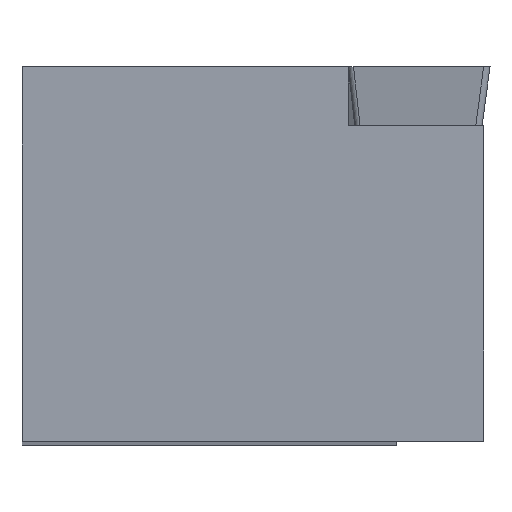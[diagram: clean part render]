
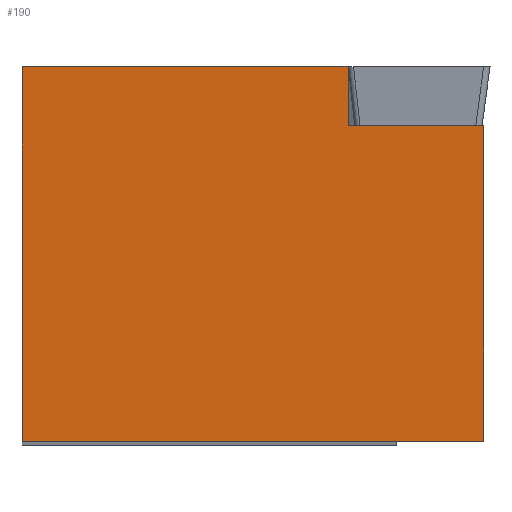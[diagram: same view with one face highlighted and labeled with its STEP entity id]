
A CAD part, top view. The second image highlights one B-rep face of the part: STEP entity #190.
In plain terms, the highlighted planar face has unit normal (-0.087, 0, 0.996).
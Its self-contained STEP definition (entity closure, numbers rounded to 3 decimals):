
#41 = CARTESIAN_POINT ( 'NONE',  ( -29.77, -12.7, -4.294 ) ) ;
#63 = ORIENTED_EDGE ( 'NONE', *, *, #683, .T. ) ;
#73 = DIRECTION ( 'NONE',  ( 0., -1., 0. ) ) ;
#91 = VERTEX_POINT ( 'NONE', #324 ) ;
#117 = CARTESIAN_POINT ( 'NONE',  ( 15.442, -12.7, -0.338 ) ) ;
#162 = CARTESIAN_POINT ( 'NONE',  ( 15.082, 8.73, -0.369 ) ) ;
#190 = ADVANCED_FACE ( 'NONE', ( #200 ), #647, .F. ) ;
#200 = FACE_OUTER_BOUND ( 'NONE', #977, .T. ) ;
#208 = VECTOR ( 'NONE', #675, 1000. ) ;
#248 = VECTOR ( 'NONE', #73, 1000. ) ;
#262 = CARTESIAN_POINT ( 'NONE',  ( -15.875, 12.7, -3.078 ) ) ;
#324 = CARTESIAN_POINT ( 'NONE',  ( -15.875, -12.7, -3.078 ) ) ;
#326 = AXIS2_PLACEMENT_3D ( 'NONE', #349, #924, #677 ) ;
#338 = VERTEX_POINT ( 'NONE', #262 ) ;
#345 = EDGE_CURVE ( 'NONE', #338, #91, #493, .T. ) ;
#349 = CARTESIAN_POINT ( 'NONE',  ( -29.77, -12.7, -4.294 ) ) ;
#393 = ORIENTED_EDGE ( 'NONE', *, *, #578, .F. ) ;
#398 = DIRECTION ( 'NONE',  ( 0., 1., 0. ) ) ;
#416 = CARTESIAN_POINT ( 'NONE',  ( 15.442, -12.7, -0.338 ) ) ;
#419 = CARTESIAN_POINT ( 'NONE',  ( -15.875, 12.7, -3.078 ) ) ;
#440 = VECTOR ( 'NONE', #398, 1000. ) ;
#477 = CARTESIAN_POINT ( 'NONE',  ( -29.77, 12.7, -4.294 ) ) ;
#493 = LINE ( 'NONE', #419, #248 ) ;
#513 = VERTEX_POINT ( 'NONE', #773 ) ;
#525 = VECTOR ( 'NONE', #982, 1000. ) ;
#564 = VECTOR ( 'NONE', #799, 1000. ) ;
#578 = EDGE_CURVE ( 'NONE', #904, #513, #1002, .T. ) ;
#581 = VERTEX_POINT ( 'NONE', #880 ) ;
#624 = LINE ( 'NONE', #162, #208 ) ;
#627 = EDGE_CURVE ( 'NONE', #972, #581, #1049, .T. ) ;
#647 = PLANE ( 'NONE',  #326 ) ;
#675 = DIRECTION ( 'NONE',  ( 0.996, 0., 0.087 ) ) ;
#677 = DIRECTION ( 'NONE',  ( -0.996, 0., -0.087 ) ) ;
#683 = EDGE_CURVE ( 'NONE', #904, #338, #708, .T. ) ;
#696 = ORIENTED_EDGE ( 'NONE', *, *, #345, .T. ) ;
#708 = LINE ( 'NONE', #477, #525 ) ;
#722 = DIRECTION ( 'NONE',  ( -0.996, 0., -0.087 ) ) ;
#727 = ORIENTED_EDGE ( 'NONE', *, *, #1094, .F. ) ;
#744 = CARTESIAN_POINT ( 'NONE',  ( 6.242, 12.7, -1.143 ) ) ;
#773 = CARTESIAN_POINT ( 'NONE',  ( 6.242, 8.73, -1.143 ) ) ;
#778 = ORIENTED_EDGE ( 'NONE', *, *, #794, .F. ) ;
#794 = EDGE_CURVE ( 'NONE', #972, #91, #823, .T. ) ;
#796 = VECTOR ( 'NONE', #722, 1000. ) ;
#799 = DIRECTION ( 'NONE',  ( 0., -1., 0. ) ) ;
#823 = LINE ( 'NONE', #41, #796 ) ;
#880 = CARTESIAN_POINT ( 'NONE',  ( 15.442, 8.73, -0.338 ) ) ;
#904 = VERTEX_POINT ( 'NONE', #744 ) ;
#924 = DIRECTION ( 'NONE',  ( 0.087, 0., -0.996 ) ) ;
#972 = VERTEX_POINT ( 'NONE', #416 ) ;
#975 = CARTESIAN_POINT ( 'NONE',  ( 6.242, 10.63, -1.143 ) ) ;
#977 = EDGE_LOOP ( 'NONE', ( #696, #778, #983, #727, #393, #63 ) ) ;
#982 = DIRECTION ( 'NONE',  ( -0.996, 0., -0.087 ) ) ;
#983 = ORIENTED_EDGE ( 'NONE', *, *, #627, .T. ) ;
#1002 = LINE ( 'NONE', #975, #564 ) ;
#1049 = LINE ( 'NONE', #117, #440 ) ;
#1094 = EDGE_CURVE ( 'NONE', #513, #581, #624, .T. ) ;
